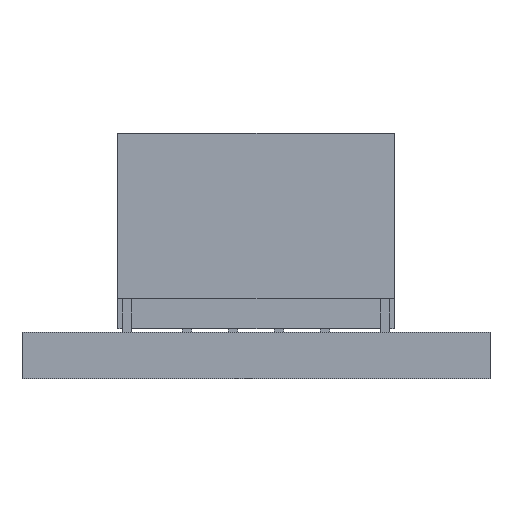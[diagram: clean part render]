
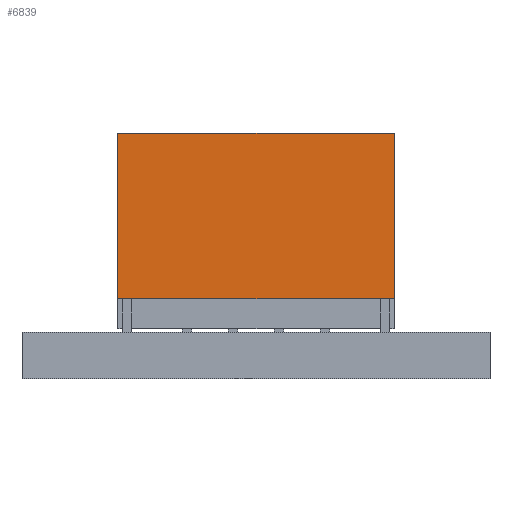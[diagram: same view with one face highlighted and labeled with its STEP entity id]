
A CAD part, front view. The second image highlights one B-rep face of the part: STEP entity #6839.
In plain terms, the highlighted planar face has unit normal (0, -1, 0).
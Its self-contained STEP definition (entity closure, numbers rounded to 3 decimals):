
#38 = CARTESIAN_POINT ( 'NONE',  ( 2.08, 5.77, 1.736 ) ) ;
#246 = PLANE ( 'NONE',  #23463 ) ;
#1335 = VERTEX_POINT ( 'NONE', #3029 ) ;
#2323 = CARTESIAN_POINT ( 'NONE',  ( 2.08, 5.77, 5.336 ) ) ;
#2509 = ORIENTED_EDGE ( 'NONE', *, *, #2547, .T. ) ;
#2542 = VERTEX_POINT ( 'NONE', #38 ) ;
#2547 = EDGE_CURVE ( 'NONE', #2542, #8375, #24890, .T. ) ;
#2977 = LINE ( 'NONE', #4653, #8195 ) ;
#3029 = CARTESIAN_POINT ( 'NONE',  ( 8.08, 5.77, 5.336 ) ) ;
#3313 = EDGE_CURVE ( 'NONE', #29134, #2542, #8492, .T. ) ;
#3709 = EDGE_LOOP ( 'NONE', ( #18287, #2509, #13350, #28476 ) ) ;
#4199 = DIRECTION ( 'NONE',  ( 0., 0., -1. ) ) ;
#4653 = CARTESIAN_POINT ( 'NONE',  ( 2.08, 5.77, 5.336 ) ) ;
#4837 = DIRECTION ( 'NONE',  ( 0., 1., 0. ) ) ;
#5563 = CARTESIAN_POINT ( 'NONE',  ( 8.08, 5.77, 1.736 ) ) ;
#6839 = ADVANCED_FACE ( 'NONE', ( #24947 ), #246, .F. ) ;
#8195 = VECTOR ( 'NONE', #25480, 1000. ) ;
#8375 = VERTEX_POINT ( 'NONE', #5563 ) ;
#8492 = LINE ( 'NONE', #15572, #21201 ) ;
#10032 = EDGE_CURVE ( 'NONE', #1335, #8375, #11664, .T. ) ;
#11110 = CARTESIAN_POINT ( 'NONE',  ( 2.08, 5.77, 1.736 ) ) ;
#11664 = LINE ( 'NONE', #14334, #22115 ) ;
#12456 = EDGE_CURVE ( 'NONE', #29134, #1335, #2977, .T. ) ;
#13350 = ORIENTED_EDGE ( 'NONE', *, *, #10032, .F. ) ;
#13867 = DIRECTION ( 'NONE',  ( -1., 0., 0. ) ) ;
#14334 = CARTESIAN_POINT ( 'NONE',  ( 8.08, 5.77, 5.336 ) ) ;
#15572 = CARTESIAN_POINT ( 'NONE',  ( 2.08, 5.77, 5.336 ) ) ;
#18287 = ORIENTED_EDGE ( 'NONE', *, *, #3313, .T. ) ;
#21201 = VECTOR ( 'NONE', #4199, 1000. ) ;
#22115 = VECTOR ( 'NONE', #22775, 1000. ) ;
#22732 = CARTESIAN_POINT ( 'NONE',  ( 2.08, 5.77, 5.336 ) ) ;
#22775 = DIRECTION ( 'NONE',  ( 0., 0., -1. ) ) ;
#23194 = VECTOR ( 'NONE', #27268, 1000. ) ;
#23463 = AXIS2_PLACEMENT_3D ( 'NONE', #22732, #4837, #13867 ) ;
#24890 = LINE ( 'NONE', #11110, #23194 ) ;
#24947 = FACE_OUTER_BOUND ( 'NONE', #3709, .T. ) ;
#25480 = DIRECTION ( 'NONE',  ( 1., 0., 0. ) ) ;
#27268 = DIRECTION ( 'NONE',  ( 1., 0., 0. ) ) ;
#28476 = ORIENTED_EDGE ( 'NONE', *, *, #12456, .F. ) ;
#29134 = VERTEX_POINT ( 'NONE', #2323 ) ;
